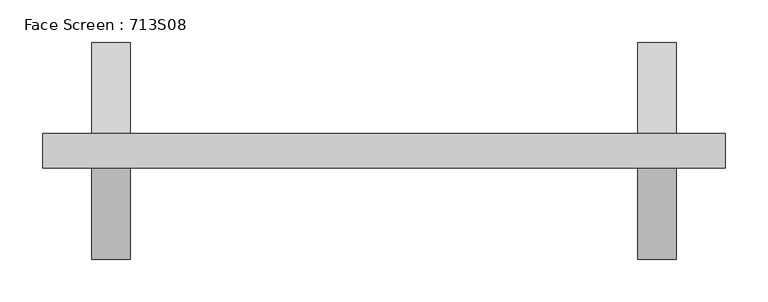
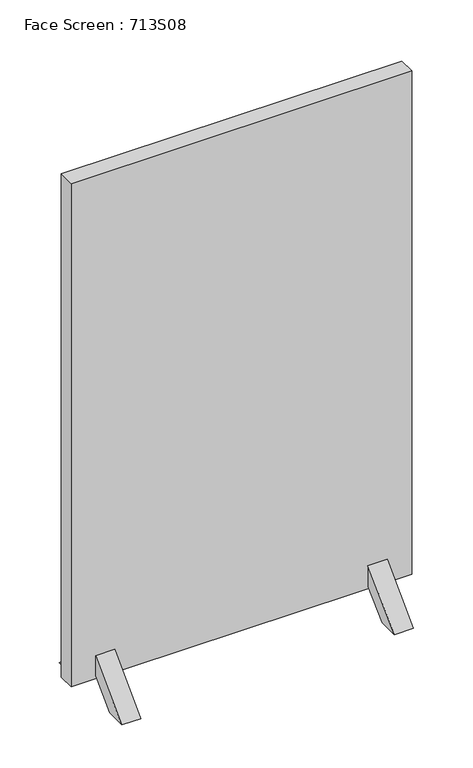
"""IFC4 building model written with IfcOpenShell, lengths in millimetres: furniture geometry, Face Screen : 713S08."""

import ifcopenshell
import ifcopenshell.guid

model = None  # the IFC model being written
_history = None  # IfcOwnerHistory: only IFC2X3 demands one
_inside = {}  # id of a spatial element -> (the spatial element, [elements in it])
_under = {}  # id of a project, library or spatial element -> (it, [spatial elements below it])
_declared = {}  # id of a project -> (the project, [libraries it declares])
_typed = {}  # id of a type object -> (the type object, [elements of that type])
_made_of = {}  # id of a material, layer set ... -> (it, [elements and type objects made of it])


def new_model(schema):
    """Start an empty IFC model of exactly this schema.

    Asked for "IFC4X3", IfcOpenShell would pick the latest addendum, in which some entities
    have other attributes; the version numbers below select the first issue.
    IFC2X3 requires an IfcOwnerHistory on every rooted entity: one is made here for all.
    """
    global model, _history
    if schema == "IFC4X3":
        model = ifcopenshell.file(schema_version=(4, 3, 0, 0))
    else:
        model = ifcopenshell.file(schema=schema)
    _inside.clear()
    _under.clear()
    _declared.clear()
    _typed.clear()
    _made_of.clear()
    _history = None
    if model.schema == "IFC2X3":
        org = make("IfcOrganization", Name="unknown")
        user = make(
            "IfcPersonAndOrganization",
            ThePerson=make("IfcPerson", FamilyName="unknown"),
            TheOrganization=org,
        )
        app = make(
            "IfcApplication",
            ApplicationDeveloper=org,
            Version="unknown",
            ApplicationFullName="unknown",
            ApplicationIdentifier="unknown",
        )
        _history = make(
            "IfcOwnerHistory",
            OwningUser=user,
            OwningApplication=app,
            ChangeAction="ADDED",
            CreationDate=0,
        )
    return model


def make(cls, **values):
    """One entity of the class cls with the attributes given. An attribute that is None is left unset."""
    return model.create_entity(
        cls, **{name: value for name, value in values.items() if value is not None}
    )


def rooted(cls, **values):
    """An entity with a GlobalId (a new one), such as an element, a storey or a relation."""
    return make(cls, GlobalId=ifcopenshell.guid.new(), OwnerHistory=_history, **values)


def si_unit(unit_type, name, prefix=None):
    """IfcSIUnit, for example si_unit("LENGTHUNIT", "METRE", prefix="MILLI")."""
    return make("IfcSIUnit", UnitType=unit_type, Prefix=prefix, Name=name)


def assignment(units):
    """IfcUnitAssignment: the units of a project."""
    return None if units is None else make("IfcUnitAssignment", Units=units)


def point(xyz):
    """IfcCartesianPoint."""
    return None if xyz is None else make("IfcCartesianPoint", Coordinates=xyz)


def direction(xyz):
    """IfcDirection."""
    return None if xyz is None else make("IfcDirection", DirectionRatios=xyz)


def frame(location, z_axis=None, x_axis=None):
    """IfcAxis2Placement3D, a coordinate frame: its origin and axes. An axis left out is left unset."""
    return make(
        "IfcAxis2Placement3D",
        Location=point(location),
        Axis=direction(z_axis),
        RefDirection=direction(x_axis),
    )


def origin():
    """The frame at (0, 0, 0) with its axes left unset."""
    return frame((0.0, 0.0, 0.0))


def place(relative_to, where):
    """IfcLocalPlacement: puts the frame where relative to a parent placement (None: the world)."""
    return make(
        "IfcLocalPlacement", PlacementRelTo=relative_to, RelativePlacement=where
    )


def context(
    kind, dimensions, precision=None, world=None, true_north=None, identifier=None
):
    """IfcGeometricRepresentationContext, for example the 3D "Model" context."""
    return make(
        "IfcGeometricRepresentationContext",
        ContextIdentifier=identifier,
        ContextType=kind,
        CoordinateSpaceDimension=dimensions,
        Precision=precision,
        WorldCoordinateSystem=world,
        TrueNorth=true_north,
    )


def project(units=None, contexts=None):
    """IfcProject with its units and contexts."""
    return rooted(
        "IfcProject",
        Name="project",
        RepresentationContexts=contexts,
        UnitsInContext=assignment(units),
    )


def spatial(cls, under=None, at=None, **own):
    """A site, building, storey or space (cls), placed at a placement, below another one or the project."""
    s = rooted(cls, ObjectPlacement=at, **own)
    if under is not None:
        _under.setdefault(under.id(), (under, []))[1].append(s)
    return s


def polyline(points):
    """IfcPolyline through the points."""
    return make("IfcPolyline", Points=[point(p) for p in points])


def outline(outer, holes=None, kind="AREA"):
    """IfcArbitraryClosedProfileDef: a profile drawn as a closed curve; with holes, ...WithVoids."""
    if holes is None:
        return make("IfcArbitraryClosedProfileDef", ProfileType=kind, OuterCurve=outer)
    return make(
        "IfcArbitraryProfileDefWithVoids",
        ProfileType=kind,
        OuterCurve=outer,
        InnerCurves=holes,
    )


def extrude(swept, where, along, depth):
    """IfcExtrudedAreaSolid: the profile swept, set in the frame where, extruded along a direction by depth."""
    return make(
        "IfcExtrudedAreaSolid",
        SweptArea=swept,
        Position=where,
        ExtrudedDirection=direction(along),
        Depth=depth,
    )


def faces_of(points, faces, orient=None, outer=None):
    """IfcFace entities. A face is a list of loops; a loop is a list of indices into points, from 0.

    orient and outer hold one flag for each loop. By default every Orientation is true, the
    first loop of a face is its IfcFaceOuterBound and the others are IfcFaceBound.
    """
    made = []
    for i, loops in enumerate(faces):
        bounds = []
        for j, loop in enumerate(loops):
            is_outer = j == 0 if outer is None else outer[i][j]
            bounds.append(
                make(
                    "IfcFaceOuterBound" if is_outer else "IfcFaceBound",
                    Bound=make("IfcPolyLoop", Polygon=[points[k] for k in loop]),
                    Orientation=True if orient is None else orient[i][j],
                )
            )
        made.append(make("IfcFace", Bounds=bounds))
    return made


def faceted_brep(points, faces, orient=None, outer=None, voids=None):
    """IfcFacetedBrep: a solid bounded by flat faces; with voids (closed shells), ...WithVoids."""
    shared = [point(p) for p in points]
    hull = make("IfcClosedShell", CfsFaces=faces_of(shared, faces, orient, outer))
    if voids is None:
        return make("IfcFacetedBrep", Outer=hull)
    return make(
        "IfcFacetedBrepWithVoids",
        Outer=hull,
        Voids=[
            make(cls, CfsFaces=faces_of(shared, fs, o, b)) for cls, fs, o, b in voids
        ],
    )


def shape(context_of_items, identifier, shape_type, items):
    """IfcShapeRepresentation: the items that make up one representation, for example the "Body"."""
    return make(
        "IfcShapeRepresentation",
        ContextOfItems=context_of_items,
        RepresentationIdentifier=identifier,
        RepresentationType=shape_type,
        Items=items,
    )


def source(mapping_origin, context_of_items, identifier, shape_type, items):
    """IfcRepresentationMap: a shape defined once, which mapped items show again and again."""
    return make(
        "IfcRepresentationMap",
        MappingOrigin=mapping_origin,
        MappedRepresentation=shape(context_of_items, identifier, shape_type, items),
    )


def transform(
    local_origin,
    x_axis=None,
    y_axis=None,
    z_axis=None,
    scale=None,
    scale2=None,
    scale3=None,
    uniform=True,
):
    """IfcCartesianTransformationOperator3D, or its non-uniform kind. x_axis, y_axis, z_axis: its Axis1, 2, 3."""
    if uniform:
        return make(
            "IfcCartesianTransformationOperator3D",
            Axis1=direction(x_axis),
            Axis2=direction(y_axis),
            LocalOrigin=point(local_origin),
            Scale=scale,
            Axis3=direction(z_axis),
        )
    return make(
        "IfcCartesianTransformationOperator3DnonUniform",
        Axis1=direction(x_axis),
        Axis2=direction(y_axis),
        LocalOrigin=point(local_origin),
        Scale=scale,
        Axis3=direction(z_axis),
        Scale2=scale2,
        Scale3=scale3,
    )


def mapped(mapping_source, mapping_target):
    """IfcMappedItem: shows the shape of a source again, moved by a transform."""
    return make(
        "IfcMappedItem", MappingSource=mapping_source, MappingTarget=mapping_target
    )


def made_of(thing, what):
    """Note that an element or type object is made of a material, layer set ...; save() writes the relation."""
    if what is not None:
        _made_of.setdefault(what.id(), (what, []))[1].append(thing)
    return thing


def element(
    cls,
    number,
    at=None,
    inside=None,
    cuts=None,
    type_object=None,
    material=None,
    context=None,
    identifier="Body",
    shape_type=None,
    held_by="IfcProductDefinitionShape",
    body=None,
    shapes=None,
    **own,
):
    """One element of the class cls, such as IfcWall. Its Tag is "e" and its number.

    at: its placement. inside: the storey or other place that contains it. cuts: it is an
    opening in that element (IfcRelVoidsElement). A single representation is given by context,
    identifier, shape_type and body (its items); several are given by shapes. held_by: the class
    of the entity that holds the representations. save() writes the other relations.
    """
    e = rooted(cls, Tag="e%d" % number, ObjectPlacement=at, **own)
    if body is not None:
        shapes = [shape(context, identifier, shape_type, body)]
    if shapes is not None:
        e.Representation = make(held_by, Representations=shapes)
    if inside is not None:
        _inside.setdefault(inside.id(), (inside, []))[1].append(e)
    if cuts is not None:
        rooted(
            "IfcRelVoidsElement", RelatingBuildingElement=cuts, RelatedOpeningElement=e
        )
    if type_object is not None:
        _typed.setdefault(type_object.id(), (type_object, []))[1].append(e)
    return made_of(e, material)


def aggregate(whole, parts):
    """IfcRelAggregates: a whole, such as a stair, and the parts it consists of."""
    return rooted("IfcRelAggregates", RelatingObject=whole, RelatedObjects=parts)


def save(model, path):
    """Write the relations noted so far, then the file.

    IfcRelAggregates (storeys below a building ...), IfcRelContainedInSpatialStructure (elements
    in a storey), IfcRelDefinesByType, IfcRelAssociatesMaterial and IfcRelDeclares: one each for
    every whole, place, type object, material and project.
    """
    for whole, parts in _under.values():
        aggregate(whole, parts)
    for where, things in _inside.values():
        rooted(
            "IfcRelContainedInSpatialStructure",
            RelatedElements=things,
            RelatingStructure=where,
        )
    for kind, things in _typed.values():
        rooted("IfcRelDefinesByType", RelatedObjects=things, RelatingType=kind)
    for what, things in _made_of.values():
        rooted("IfcRelAssociatesMaterial", RelatedObjects=things, RelatingMaterial=what)
    for by, libraries in _declared.values():
        rooted("IfcRelDeclares", RelatingContext=by, RelatedDefinitions=libraries)
    model.write(path)


def face_screen_713s08_e614f201(model_context):
    return source(origin(), model_context, "Body", "SolidModel", [
        faceted_brep([(309.0, 20.0, 50.0955899), (309.0, 20.0, 57.4960966), (309.0, 37.6776695, 39.8184271), (309.0, -37.6776695, 39.8184271), (309.0, -20.0, 57.4960966), (309.0, -20.0, 50.0955899), (297.5, -126.9935713, 0.0), (342.5, -126.9935713, 0.0), (342.5, -20.0, 106.9935713), (297.5, -20.0, 106.9935713), (297.5, -77.4960966, 0.0), (342.5, -77.4960966, 0.0), (297.5, -20.0, 57.4960966), (331.0, -37.6776695, 39.8184271), (331.0, -20.0, 57.4960966), (342.5, -20.0, 57.4960966), (331.0, 20.0, 50.0955899), (331.0, -20.0, 50.0955899), (331.0, 37.6776695, 39.8184271), (331.0, 20.0, 57.4960966), (342.5, 20.0, 57.4960966), (342.5, 20.0, 106.9935713), (297.5, 20.0, 106.9935713), (297.5, 20.0, 57.4960966), (297.5, 126.9935713, 0.0), (297.5, 77.4960966, 0.0), (342.5, 77.4960966, 0.0), (342.5, 126.9935713, 0.0)], [[[0, 1, 2, 3, 4, 5]], [[6, 7, 8, 9]], [[10, 11, 7, 6]], [[12, 4, 3, 13, 14, 15, 11, 10]], [[16, 17, 14, 13, 18, 19]], [[5, 17, 16, 0]], [[4, 12, 9, 8, 15, 14, 17, 5]], [[2, 18, 13, 3]], [[0, 16, 19, 20, 21, 22, 23, 1]], [[22, 24, 25, 23]], [[9, 12, 10, 6]], [[21, 20, 26, 27]], [[8, 7, 11, 15]], [[25, 26, 20, 19, 18, 2, 1, 23]], [[24, 27, 26, 25]], [[22, 21, 27, 24]]]),
        faceted_brep([(-309.0, -20.0, 50.0955899), (-309.0, -20.0, 57.4960966), (-309.0, -37.6776695, 39.8184271), (-309.0, 37.6776695, 39.8184271), (-309.0, 20.0, 57.4960966), (-309.0, 20.0, 50.0955899), (-297.5, 126.9935713, 0.0), (-342.5, 126.9935713, 0.0), (-342.5, 20.0, 106.9935713), (-297.5, 20.0, 106.9935713), (-297.5, 77.4960966, 0.0), (-342.5, 77.4960966, 0.0), (-297.5, 20.0, 57.4960966), (-331.0, 37.6776695, 39.8184271), (-331.0, 20.0, 57.4960966), (-342.5, 20.0, 57.4960966), (-331.0, -20.0, 50.0955899), (-331.0, 20.0, 50.0955899), (-331.0, -37.6776695, 39.8184271), (-331.0, -20.0, 57.4960966), (-342.5, -20.0, 57.4960966), (-342.5, -20.0, 106.9935713), (-297.5, -20.0, 106.9935713), (-297.5, -20.0, 57.4960966), (-297.5, -126.9935713, 0.0), (-297.5, -77.4960966, 0.0), (-342.5, -77.4960966, 0.0), (-342.5, -126.9935713, 0.0)], [[[0, 1, 2, 3, 4, 5]], [[6, 7, 8, 9]], [[10, 11, 7, 6]], [[12, 4, 3, 13, 14, 15, 11, 10]], [[16, 17, 14, 13, 18, 19]], [[5, 17, 16, 0]], [[4, 12, 9, 8, 15, 14, 17, 5]], [[2, 18, 13, 3]], [[0, 16, 19, 20, 21, 22, 23, 1]], [[22, 24, 25, 23]], [[9, 12, 10, 6]], [[21, 20, 26, 27]], [[8, 7, 11, 15]], [[25, 26, 20, 19, 18, 2, 1, 23]], [[24, 27, 26, 25]], [[22, 21, 27, 24]]]),
        extrude(outline(polyline([(400.0, 20.0), (400.0, -20.0), (-400.0, -20.0), (-400.0, 20.0), (400.0, 20.0)])), frame((0.0, 0.0, 50.0), z_axis=(0.0, 0.0, 1.0), x_axis=(1.0, 0.0, 0.0)), (0.0, 0.0, 1.0), 1250.0),
    ])


if __name__ == "__main__":
    model = new_model("IFC4")
    model_context = context("Model", 3, world=origin())
    ifc_project = project(units=[si_unit("LENGTHUNIT", "METRE", prefix="MILLI")], contexts=[model_context])
    site = spatial("IfcSite", under=ifc_project)
    building = spatial("IfcBuilding", under=site)
    placement = place(None, origin())
    face_screen_713s08_shape = face_screen_713s08_e614f201(model_context)
    element("IfcFurniture", 1, ObjectType="Face Screen : 713S08", at=placement, inside=building, context=model_context, shape_type="MappedRepresentation", body=[
        mapped(face_screen_713s08_shape, transform((0.0, 0.0, 0.0), x_axis=(1.0, 0.0, 0.0), y_axis=(0.0, 1.0, 0.0), z_axis=(0.0, 0.0, 1.0))),
    ])
    save(model, "model.ifc")
